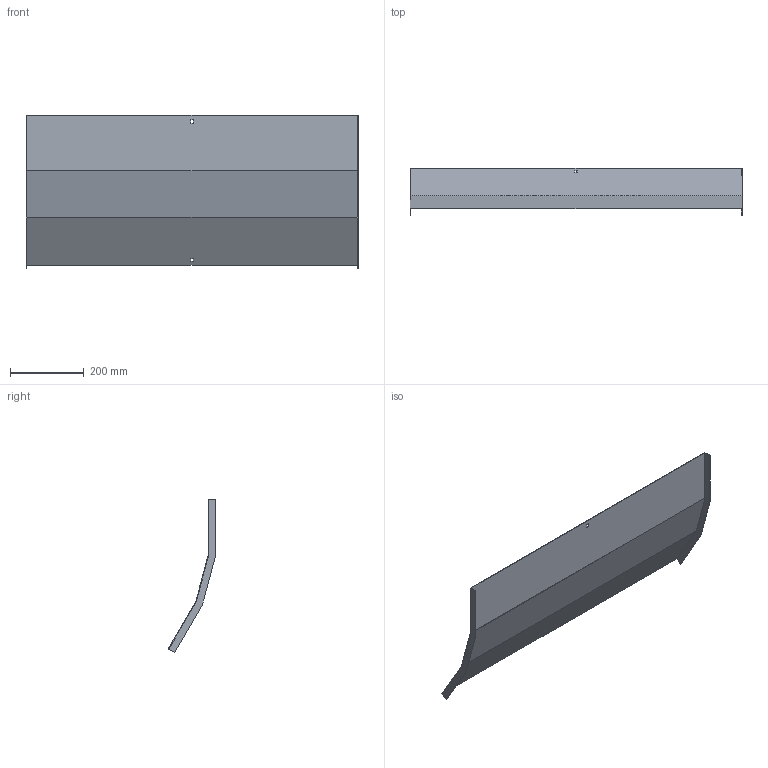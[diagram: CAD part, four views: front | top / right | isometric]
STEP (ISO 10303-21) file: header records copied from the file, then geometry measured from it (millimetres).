
FILE_DESCRIPTION (( 'STEP AP214' ), '1' );
FILE_NAME ('A2X32N5R900X.step', '2025-03-20T09:39:46', ( '' ), ( '' ), 'SwSTEP 2.0', 'SolidWorks 2023', '' );
FILE_SCHEMA (( 'AUTOMOTIVE_DESIGN' ));
Length unit declared in the file: millimetre
Products named in the file (1): A2X32N5R900X
Bounding box: 903 x 128.96 x 416.64 mm (x, y, z)
Volume: 608665.7 mm3; surface area: 815791.2 mm2
Topology: 1 solids, 1 shells, 26 faces, 72 edges, 48 vertices
Faces by surface type: plane 26
Entity records: 847 total; most frequent: CARTESIAN_POINT 147, ORIENTED_EDGE 144, DIRECTION 126, EDGE_CURVE 72, LINE 72, VECTOR 72, VERTEX_POINT 48, EDGE_LOOP 30
